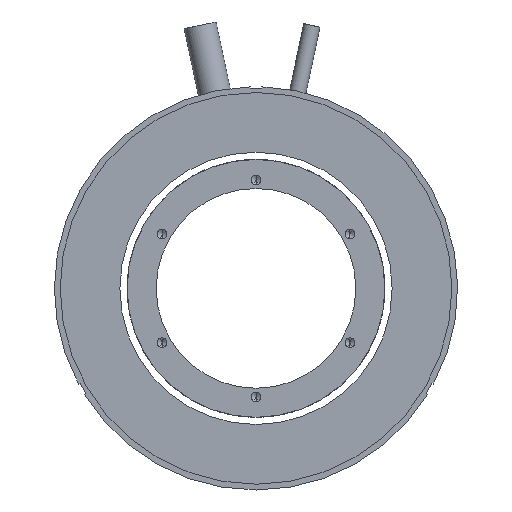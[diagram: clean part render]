
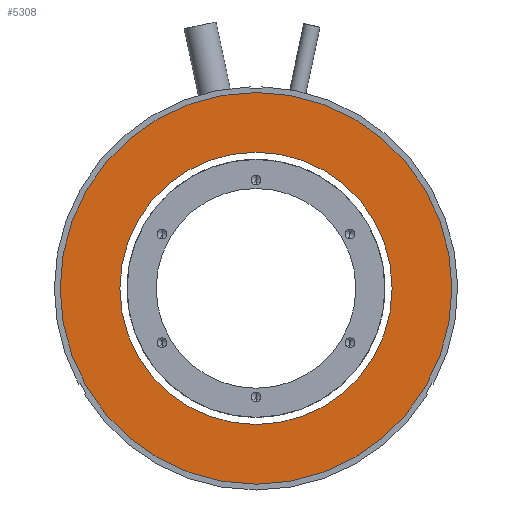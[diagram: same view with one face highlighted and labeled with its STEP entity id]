
A CAD part, front view. The second image highlights one B-rep face of the part: STEP entity #5308.
In plain terms, the highlighted planar face has unit normal (0, -1, 0) as drawn and (0, 0, -1) by its records, which use the part's own axes.
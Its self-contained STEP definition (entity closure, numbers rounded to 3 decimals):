
#45 = AXIS2_PLACEMENT_3D ( 'NONE', #3554, #3314, #5070 ) ;
#70 = DIRECTION ( 'NONE',  ( 0., 0., -1. ) ) ;
#141 = DIRECTION ( 'NONE',  ( -1., 0., 0. ) ) ;
#395 = CIRCLE ( 'NONE', #4172, 51. ) ;
#497 = CARTESIAN_POINT ( 'NONE',  ( 10.826, 41.779, 26.525 ) ) ;
#543 = DIRECTION ( 'NONE',  ( -1., 0., 0. ) ) ;
#783 = EDGE_LOOP ( 'NONE', ( #1909, #4090 ) ) ;
#1164 = FACE_BOUND ( 'NONE', #783, .T. ) ;
#1269 = VERTEX_POINT ( 'NONE', #4984 ) ;
#1639 = CARTESIAN_POINT ( 'NONE',  ( 61.826, 41.779, 26.525 ) ) ;
#1664 = PLANE ( 'NONE',  #45 ) ;
#1909 = ORIENTED_EDGE ( 'NONE', *, *, #4740, .F. ) ;
#2059 = CARTESIAN_POINT ( 'NONE',  ( 10.826, 41.779, 26.525 ) ) ;
#2328 = CIRCLE ( 'NONE', #5192, 35.45 ) ;
#2526 = DIRECTION ( 'NONE',  ( 0., 0., -1. ) ) ;
#2641 = CARTESIAN_POINT ( 'NONE',  ( -24.624, 41.779, 26.525 ) ) ;
#3053 = ORIENTED_EDGE ( 'NONE', *, *, #5293, .T. ) ;
#3056 = CIRCLE ( 'NONE', #3639, 35.45 ) ;
#3104 = VERTEX_POINT ( 'NONE', #6363 ) ;
#3238 = AXIS2_PLACEMENT_3D ( 'NONE', #2059, #5390, #4251 ) ;
#3256 = EDGE_CURVE ( 'NONE', #6713, #3104, #3056, .T. ) ;
#3314 = DIRECTION ( 'NONE',  ( 0., 0., -1. ) ) ;
#3554 = CARTESIAN_POINT ( 'NONE',  ( 10.826, 41.779, 26.525 ) ) ;
#3607 = CARTESIAN_POINT ( 'NONE',  ( 10.826, 41.779, 26.525 ) ) ;
#3639 = AXIS2_PLACEMENT_3D ( 'NONE', #497, #70, #141 ) ;
#3876 = DIRECTION ( 'NONE',  ( 0., 0., -1. ) ) ;
#4090 = ORIENTED_EDGE ( 'NONE', *, *, #3256, .F. ) ;
#4172 = AXIS2_PLACEMENT_3D ( 'NONE', #5449, #3876, #543 ) ;
#4251 = DIRECTION ( 'NONE',  ( -1., 0., 0. ) ) ;
#4740 = EDGE_CURVE ( 'NONE', #3104, #6713, #2328, .T. ) ;
#4984 = CARTESIAN_POINT ( 'NONE',  ( -40.174, 41.779, 26.525 ) ) ;
#5070 = DIRECTION ( 'NONE',  ( -1., 0., 0. ) ) ;
#5192 = AXIS2_PLACEMENT_3D ( 'NONE', #3607, #2526, #5780 ) ;
#5293 = EDGE_CURVE ( 'NONE', #5980, #1269, #6660, .T. ) ;
#5308 = ADVANCED_FACE ( 'NONE', ( #6627, #1164 ), #1664, .T. ) ;
#5390 = DIRECTION ( 'NONE',  ( 0., 0., -1. ) ) ;
#5449 = CARTESIAN_POINT ( 'NONE',  ( 10.826, 41.779, 26.525 ) ) ;
#5555 = EDGE_CURVE ( 'NONE', #1269, #5980, #395, .T. ) ;
#5780 = DIRECTION ( 'NONE',  ( -1., 0., 0. ) ) ;
#5980 = VERTEX_POINT ( 'NONE', #1639 ) ;
#6363 = CARTESIAN_POINT ( 'NONE',  ( 46.276, 41.779, 26.525 ) ) ;
#6553 = ORIENTED_EDGE ( 'NONE', *, *, #5555, .T. ) ;
#6627 = FACE_OUTER_BOUND ( 'NONE', #6668, .T. ) ;
#6660 = CIRCLE ( 'NONE', #3238, 51. ) ;
#6668 = EDGE_LOOP ( 'NONE', ( #3053, #6553 ) ) ;
#6713 = VERTEX_POINT ( 'NONE', #2641 ) ;
